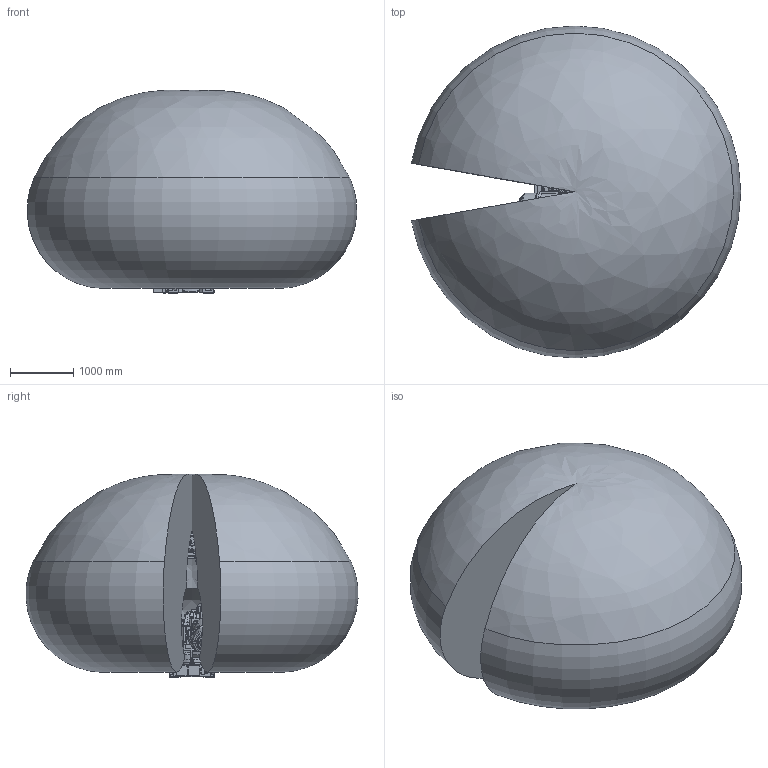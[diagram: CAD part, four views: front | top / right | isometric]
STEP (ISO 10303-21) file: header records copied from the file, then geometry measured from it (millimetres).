
FILE_DESCRIPTION(/* description */ (''),/* implementation_level */ '2;1');
FILE_NAME(/* name */ 'E:\组装完成的图纸\IRB 6700\IRB 6700Inv-300-2.6\IRB 6700Inv-300-2.6(带工作域).stp',/* time_stamp */ '2023-11-04T20:05:10+08:00',/* author */ ('Administrator'),/* organization */ (''),/* preprocessor_version */ 'ST-DEVELOPER v16.5',/* originating_system */ 'Autodesk Inventor 2017',/* authorisation */ '');
FILE_SCHEMA (('AUTOMOTIVE_DESIGN { 1 0 10303 214 3 1 1 }'));
Products named in the file (17): 部件6; IRB6700Inv_260_Working-space-forward; IRB6700Inv_300-260_IRC5_rev00_BASE_CAD; IRB6700Inv_300-260_IRC5_rev00_CYLINDER_CAD; IRB6700Inv_300-260_IRC5_rev00_LINK01_CAD; IRB6700Inv_300-260_IRC5_rev00_LINK01m_CABLE; IRB6700Inv_300-260_IRC5_rev00_LINK02_CAD; IRB6700Inv_300-260_IRC5_rev00_LINK02m_CABLE; IRB6700Inv_300-260_IRC5_rev00_LINK03_CAD; IRB6700Inv_300-260_IRC5_rev00_LINK03m_CABLE; IRB6700Inv_300-260_IRC5_rev00_LINK04_CAD; IRB6700Inv_300-260_IRC5_rev00_LINK05_CAD; IRB6700Inv_300-260_IRC5_rev00_LINK06_CAD; IRB6700Inv_300-260_IRC5_rev00_LOGO1_CAD; IRB6700Inv_300-260_IRC5_rev00_LOGO2_CAD; IRB6700Inv_300-260_IRC5_rev00_LOGO3_CAD; IRB6700Inv_300-260_IRC5_rev00_ROD_CAD
Assembly tree (16 placements, depth 2):
  部件6
    IRB6700Inv_260_Working-space-forward
    IRB6700Inv_300-260_IRC5_rev00_BASE_CAD
    IRB6700Inv_300-260_IRC5_rev00_CYLINDER_CAD
    IRB6700Inv_300-260_IRC5_rev00_LINK01_CAD
    IRB6700Inv_300-260_IRC5_rev00_LINK01m_CABLE
    IRB6700Inv_300-260_IRC5_rev00_LINK02_CAD
    IRB6700Inv_300-260_IRC5_rev00_LINK02m_CABLE
    IRB6700Inv_300-260_IRC5_rev00_LINK03_CAD
    IRB6700Inv_300-260_IRC5_rev00_LINK03m_CABLE
    IRB6700Inv_300-260_IRC5_rev00_LINK04_CAD
    IRB6700Inv_300-260_IRC5_rev00_LINK05_CAD
    IRB6700Inv_300-260_IRC5_rev00_LINK06_CAD
    IRB6700Inv_300-260_IRC5_rev00_LOGO1_CAD
    IRB6700Inv_300-260_IRC5_rev00_LOGO2_CAD
    IRB6700Inv_300-260_IRC5_rev00_LOGO3_CAD
    IRB6700Inv_300-260_IRC5_rev00_ROD_CAD
Bounding box: 5189.55 x 5229.28 x 3203.85 mm (x, y, z)
Volume: 43442905749 mm3; surface area: 97125915.9 mm2
Topology: 17 solids, 19 shells, 4607 faces, 11703 edges, 7684 vertices
Faces by surface type: plane 3028, cylinder 814, cone 380, bspline 367, torus 16, sphere 2
Full cylindrical faces by diameter (mm): 5 x13, 5.45 x1, 6.5 x2, 6.6 x4, 6.8 x22, 7 x2, 8.3 x4, 8.5 x8, 9 x3, 10.2 x39, 11.05 x2, 11.3 x2, 11.363 x1, 11.366 x1, 12 x10, 13 x4, 13.27 x8, 14 x26, 14.9 x1, 16 x14, 16.27 x24, 17 x13, 17.5 x8, 18 x2, 18.27 x56, 19 x49, 19.75 x2, 20 x3, 20.614 x2, 20.883 x1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
Entity records: 251223 total; most frequent: CARTESIAN_POINT 143516, ORIENTED_EDGE 21968, DIRECTION 20871, EDGE_CURVE 10984, VERTEX_POINT 7577, AXIS2_PLACEMENT_3D 7093, LINE 6685, VECTOR 6685
